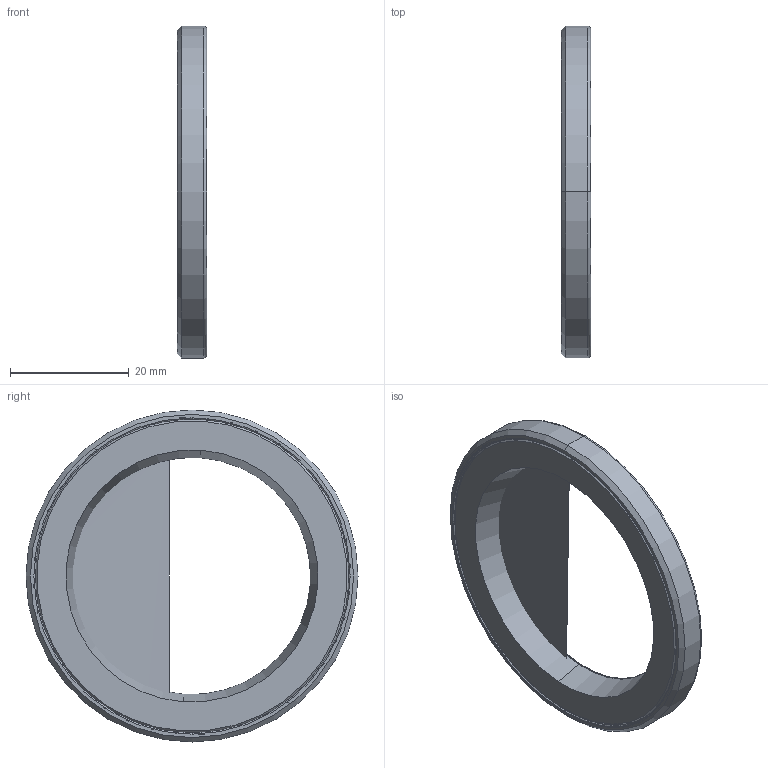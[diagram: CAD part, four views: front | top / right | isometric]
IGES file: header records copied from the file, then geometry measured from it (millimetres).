
Start section: 3D InterOp IGES (Version 21 0 1), Spatial Corp. Copyright (c) 1999-2007.
Global section: file name: DBX-40.igs; native system: Spatial Corp.; preprocessor: 3D InterOp GENERIC/IGES 3.0; author: Noname; organization: Noname; date: 20220216.143334; units: millimetre
Bounding box: 5 x 56 x 56 mm (x, y, z)
Surface area: 7882.5 mm2 (no closed solid volume)
Topology: 0 solids, 0 shells, 43 faces, 180 edges, 176 vertices
Faces by surface type: revolution 36, extrusion 7
